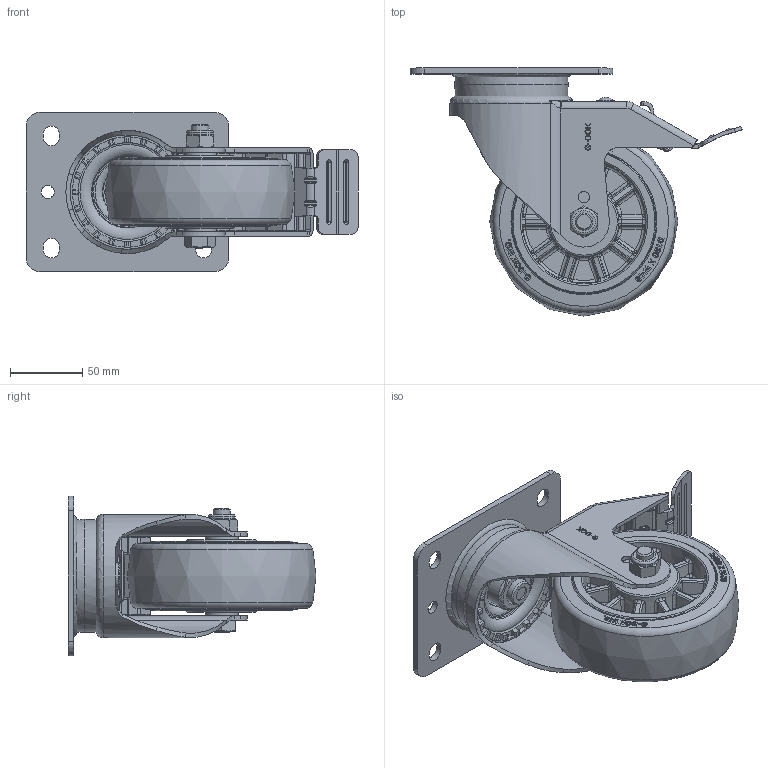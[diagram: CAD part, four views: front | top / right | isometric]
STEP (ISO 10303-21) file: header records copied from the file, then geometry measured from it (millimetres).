
FILE_DESCRIPTION(/* description */ (''),/* implementation_level */ '2;1');
FILE_NAME(/* name */ 'C:\Users\admin\Desktop\업무폴더\일자별 업무\2026\05월\05.15\변환\SPH-130-BSF-TUD&HRD-PEU.ipt.stp',/* time_stamp */ '2026-05-15T16:33:43+09:00',/* author */ ('admin'),/* organization */ ('지덕산업'),/* preprocessor_version */ 'ST-DEVELOPER v18.1',/* originating_system */ 'Autodesk Inventor 2021',/* authorisation */ '');
FILE_SCHEMA (('AUTOMOTIVE_DESIGN { 1 0 10303 214 3 1 1 }'));
Products named in the file (1): SPH-130-BSF-TUD&HRD-PEU
Bounding box: 229.04 x 171 x 110 mm (x, y, z)
Volume: 747542.4 mm3; surface area: 166742.5 mm2
Topology: 1 solids, 2 shells, 2100 faces, 5439 edges, 3418 vertices
Faces by surface type: plane 818, bspline 679, cylinder 350, cone 90, torus 82, sphere 81
Full cylindrical faces by diameter (mm): 6 x1, 8 x5, 9 x3, 10 x1, 12 x2, 18 x2, 18.5 x1, 31 x1, 31.177 x1
Entity records: 75448 total; most frequent: CARTESIAN_POINT 29428, ORIENTED_EDGE 10842, DIRECTION 7659, EDGE_CURVE 5423, VERTEX_POINT 3418, AXIS2_PLACEMENT_3D 2668, LINE 2323, VECTOR 2323
